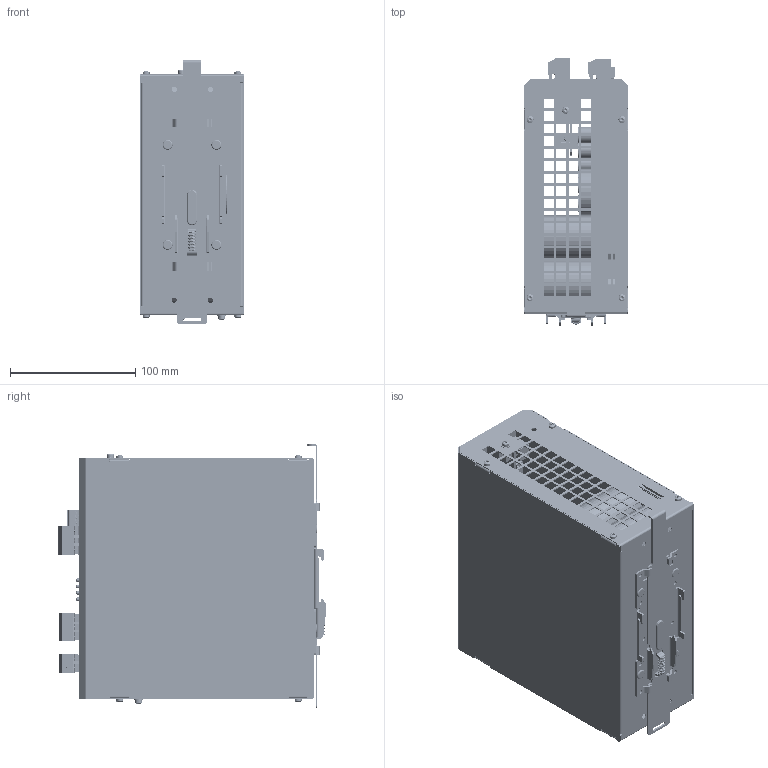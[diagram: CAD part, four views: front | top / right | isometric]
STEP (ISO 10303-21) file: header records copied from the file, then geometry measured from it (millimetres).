
FILE_DESCRIPTION(/* description */ ('C-TEC 2420'),/* implementation_level */ '2;1');
FILE_NAME(/* name */ 'C:\VAULT_WORKSPACE\Designs\EE\0747G01003\0747G01003-0001.stp',/* time_stamp */ '2020-05-26T15:57:06+02:00',/* author */ ('mhe'),/* organization */ (''),/* preprocessor_version */ 'ST-DEVELOPER v17',/* originating_system */ 'Autodesk Inventor 2018',/* authorisation */ '');
FILE_SCHEMA (('AUTOMOTIVE_DESIGN { 1 0 10303 214 3 1 1 }'));
Length unit declared in the file: millimetre
Products named in the file (24): 0747G01003-0001; 0746G03 ; 0746G10 MODELL BAUGRUPPE; MC 1,5/ 9-G-3,81; PC 4/ 2-G-7,62 ; SCHNEIDER-LUMBERG USB-2.0-Steckverbinder; SCHNEIDER-MENTOR Leuchtdoide 3xgrün-1xrot; 0746G04; 0746G04_1; SCHNEIDER Keystone 7690; PC 4/ 3-G-7,62 ; DIN 7337 - A4 x 8; 0746G10Z10; 0746G10Z11-100729; 0746G10Z16-100729; 1970G01001-7000; 1970G01001-5001; VD176; 1970G01001-7002; DIN6900 M3x6-gvz; DIN7981 2,9x6,5 ; mc_1.5-9-st-3.81; pc_4-2-st-7.62; pc_4-3-st-7.62
Assembly tree (43 placements, depth 3):
  0747G01003-0001
    0746G03 
      0746G10 MODELL BAUGRUPPE
      SCHNEIDER Keystone 7690
      MC 1,5/ 9-G-3,81
      PC 4/ 2-G-7,62 
      PC 4/ 3-G-7,62 
      SCHNEIDER-LUMBERG USB-2.0-Steckverbinder
      SCHNEIDER-MENTOR Leuchtdoide 3xgrün-1xrot
    0746G04
      0746G04_1
      SCHNEIDER Keystone 7690  x2
      PC 4/ 3-G-7,62 
    DIN 7337 - A4 x 8  x4
    0746G10Z10
    0746G10Z11-100729
    0746G10Z16-100729
    1970G01001-7000
      1970G01001-5001
      VD176
      1970G01001-7002
    DIN6900 M3x6-gvz  x7
    DIN7981 2,9x6,5   x8
    mc_1.5-9-st-3.81
    pc_4-2-st-7.62
    pc_4-3-st-7.62  x2
Bounding box: 83.7 x 213.57 x 211 mm (x, y, z)
Volume: 894801.7 mm3; surface area: 494105.2 mm2
Topology: 275 solids, 275 shells, 8072 faces, 21275 edges, 14054 vertices
Faces by surface type: plane 5407, bspline 1247, cylinder 1099, cone 162, torus 100, sphere 57
Full cylindrical faces by diameter (mm): 0.457 x8, 1.2 x9, 1.25 x9, 1.3 x16, 1.4 x4, 1.6 x16, 2 x1, 2.5 x8, 2.693 x15, 2.75 x7, 2.8 x12, 2.9 x9, 3 x20, 3.2 x28, 3.5 x4, 3.8 x8, 4 x12, 4.2 x22, 4.5 x1, 5.6 x15, 7 x7, 8 x4, 13 x6, 35 x10, 37 x1
Entity records: 234977 total; most frequent: CARTESIAN_POINT 61278, ORIENTED_EDGE 36768, DIRECTION 29326, EDGE_CURVE 18384, LINE 13682, VECTOR 13682, VERTEX_POINT 12118, AXIS2_PLACEMENT_3D 7822
